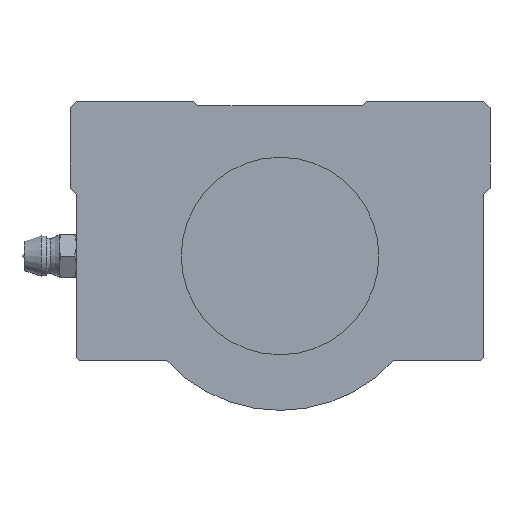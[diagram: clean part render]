
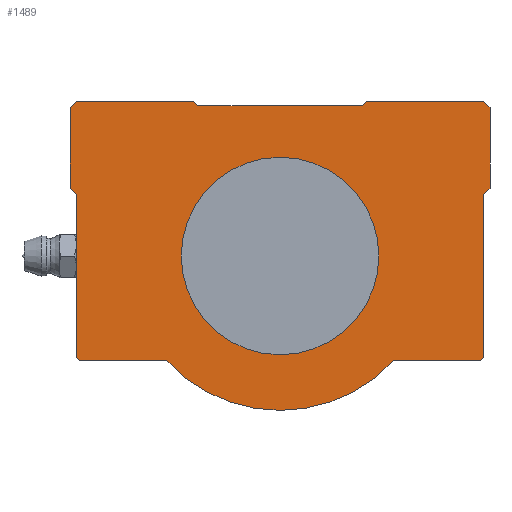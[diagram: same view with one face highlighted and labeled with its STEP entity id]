
A CAD part, left-side view. The second image highlights one B-rep face of the part: STEP entity #1489.
In plain terms, the highlighted planar face has unit normal (-1, 0, 0).
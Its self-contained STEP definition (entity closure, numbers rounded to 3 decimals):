
#1094=CARTESIAN_POINT('',(120.0,32.5,-17.));
#1095=VERTEX_POINT('',#1094);
#1102=CARTESIAN_POINT('',(120.0,33.,-16.5));
#1103=VERTEX_POINT('',#1102);
#1104=CARTESIAN_POINT('',(120.0,32.5,-17.));
#1105=DIRECTION('',(0.0,0.707,0.707));
#1106=VECTOR('',#1105,0.707);
#1107=LINE('',#1104,#1106);
#1108=EDGE_CURVE('',#1095,#1103,#1107,.T.);
#1133=CARTESIAN_POINT('',(120.0,18.33,-17.));
#1134=VERTEX_POINT('',#1133);
#1141=CARTESIAN_POINT('',(120.0,18.33,-17.));
#1142=DIRECTION('',(0.0,1.0,0.0));
#1143=VECTOR('',#1142,14.17);
#1144=LINE('',#1141,#1143);
#1145=EDGE_CURVE('',#1134,#1095,#1144,.T.);
#1326=CARTESIAN_POINT('',(120.0,-33.,-16.5));
#1327=VERTEX_POINT('',#1326);
#1334=CARTESIAN_POINT('',(120.0,-32.5,-17.));
#1335=VERTEX_POINT('',#1334);
#1336=CARTESIAN_POINT('',(120.0,-33.,-16.5));
#1337=DIRECTION('',(0.0,0.707,-0.707));
#1338=VECTOR('',#1337,0.707);
#1339=LINE('',#1336,#1338);
#1340=EDGE_CURVE('',#1327,#1335,#1339,.T.);
#1351=CARTESIAN_POINT('',(120.0,-24.,24.65));
#1352=DIRECTION('',(1.0,0.0,0.0));
#1353=DIRECTION('',(0.0,0.0,-1.0));
#1354=AXIS2_PLACEMENT_3D('',#1351,#1352,#1353);
#1355=PLANE('',#1354);
#1356=ORIENTED_EDGE('',*,*,#1108,.F.);
#1357=ORIENTED_EDGE('',*,*,#1145,.F.);
#1358=CARTESIAN_POINT('',(120.0,-18.33,-17.));
#1359=VERTEX_POINT('',#1358);
#1360=CARTESIAN_POINT('',(120.0,0.0,0.0));
#1361=DIRECTION('',(1.,0.0,0.0));
#1362=DIRECTION('',(0.0,-0.733,-0.68));
#1363=AXIS2_PLACEMENT_3D('',#1360,#1361,#1362);
#1364=CIRCLE('',#1363,25.0);
#1365=EDGE_CURVE('',#1359,#1134,#1364,.T.);
#1366=ORIENTED_EDGE('',*,*,#1365,.F.);
#1367=CARTESIAN_POINT('',(120.0,-32.5,-17.));
#1368=DIRECTION('',(0.0,1.0,0.0));
#1369=VECTOR('',#1368,14.17);
#1370=LINE('',#1367,#1369);
#1371=EDGE_CURVE('',#1335,#1359,#1370,.T.);
#1372=ORIENTED_EDGE('',*,*,#1371,.F.);
#1373=ORIENTED_EDGE('',*,*,#1340,.F.);
#1374=CARTESIAN_POINT('',(120.0,-33.0,10.));
#1375=VERTEX_POINT('',#1374);
#1376=CARTESIAN_POINT('',(120.0,-33.0,10.));
#1377=DIRECTION('',(0.0,0.0,-1.0));
#1378=VECTOR('',#1377,26.5);
#1379=LINE('',#1376,#1378);
#1380=EDGE_CURVE('',#1375,#1327,#1379,.T.);
#1381=ORIENTED_EDGE('',*,*,#1380,.F.);
#1382=CARTESIAN_POINT('',(120.0,-34.0,11.));
#1383=VERTEX_POINT('',#1382);
#1384=CARTESIAN_POINT('',(120.0,-34.0,11.));
#1385=DIRECTION('',(0.0,0.707,-0.707));
#1386=VECTOR('',#1385,1.414);
#1387=LINE('',#1384,#1386);
#1388=EDGE_CURVE('',#1383,#1375,#1387,.T.);
#1389=ORIENTED_EDGE('',*,*,#1388,.F.);
#1390=CARTESIAN_POINT('',(120.0,-34.0,24.));
#1391=VERTEX_POINT('',#1390);
#1392=CARTESIAN_POINT('',(120.0,-34.0,24.));
#1393=DIRECTION('',(0.0,0.0,-1.0));
#1394=VECTOR('',#1393,13.);
#1395=LINE('',#1392,#1394);
#1396=EDGE_CURVE('',#1391,#1383,#1395,.T.);
#1397=ORIENTED_EDGE('',*,*,#1396,.F.);
#1398=CARTESIAN_POINT('',(120.0,-33.,25.));
#1399=VERTEX_POINT('',#1398);
#1400=CARTESIAN_POINT('',(120.0,-33.,25.));
#1401=DIRECTION('',(0.0,-0.707,-0.707));
#1402=VECTOR('',#1401,1.414);
#1403=LINE('',#1400,#1402);
#1404=EDGE_CURVE('',#1399,#1391,#1403,.T.);
#1405=ORIENTED_EDGE('',*,*,#1404,.F.);
#1406=CARTESIAN_POINT('',(120.0,-14.,25.0));
#1407=VERTEX_POINT('',#1406);
#1408=CARTESIAN_POINT('',(120.0,-14.,25.0));
#1409=DIRECTION('',(0.0,-1.0,0.0));
#1410=VECTOR('',#1409,19.);
#1411=LINE('',#1408,#1410);
#1412=EDGE_CURVE('',#1407,#1399,#1411,.T.);
#1413=ORIENTED_EDGE('',*,*,#1412,.F.);
#1414=CARTESIAN_POINT('',(120.0,-13.3,24.3));
#1415=VERTEX_POINT('',#1414);
#1416=CARTESIAN_POINT('',(120.0,-13.3,24.3));
#1417=DIRECTION('',(0.0,-0.707,0.707));
#1418=VECTOR('',#1417,0.99);
#1419=LINE('',#1416,#1418);
#1420=EDGE_CURVE('',#1415,#1407,#1419,.T.);
#1421=ORIENTED_EDGE('',*,*,#1420,.F.);
#1422=CARTESIAN_POINT('',(120.0,13.3,24.3));
#1423=VERTEX_POINT('',#1422);
#1424=CARTESIAN_POINT('',(120.0,13.3,24.3));
#1425=DIRECTION('',(0.0,-1.0,0.0));
#1426=VECTOR('',#1425,26.6);
#1427=LINE('',#1424,#1426);
#1428=EDGE_CURVE('',#1423,#1415,#1427,.T.);
#1429=ORIENTED_EDGE('',*,*,#1428,.F.);
#1430=CARTESIAN_POINT('',(120.0,14.,25.0));
#1431=VERTEX_POINT('',#1430);
#1432=CARTESIAN_POINT('',(120.0,14.,25.0));
#1433=DIRECTION('',(0.0,-0.707,-0.707));
#1434=VECTOR('',#1433,0.99);
#1435=LINE('',#1432,#1434);
#1436=EDGE_CURVE('',#1431,#1423,#1435,.T.);
#1437=ORIENTED_EDGE('',*,*,#1436,.F.);
#1438=CARTESIAN_POINT('',(120.0,33.0,25.));
#1439=VERTEX_POINT('',#1438);
#1440=CARTESIAN_POINT('',(120.0,33.0,25.));
#1441=DIRECTION('',(0.0,-1.0,0.0));
#1442=VECTOR('',#1441,19.0);
#1443=LINE('',#1440,#1442);
#1444=EDGE_CURVE('',#1439,#1431,#1443,.T.);
#1445=ORIENTED_EDGE('',*,*,#1444,.F.);
#1446=CARTESIAN_POINT('',(120.0,34.0,24.));
#1447=VERTEX_POINT('',#1446);
#1448=CARTESIAN_POINT('',(120.0,34.0,24.));
#1449=DIRECTION('',(0.0,-0.707,0.707));
#1450=VECTOR('',#1449,1.414);
#1451=LINE('',#1448,#1450);
#1452=EDGE_CURVE('',#1447,#1439,#1451,.T.);
#1453=ORIENTED_EDGE('',*,*,#1452,.F.);
#1454=CARTESIAN_POINT('',(120.0,34.0,11.));
#1455=VERTEX_POINT('',#1454);
#1456=CARTESIAN_POINT('',(120.0,34.0,11.));
#1457=DIRECTION('',(0.0,0.0,1.0));
#1458=VECTOR('',#1457,13.);
#1459=LINE('',#1456,#1458);
#1460=EDGE_CURVE('',#1455,#1447,#1459,.T.);
#1461=ORIENTED_EDGE('',*,*,#1460,.F.);
#1462=CARTESIAN_POINT('',(120.0,33.0,10.));
#1463=VERTEX_POINT('',#1462);
#1464=CARTESIAN_POINT('',(120.0,33.0,10.));
#1465=DIRECTION('',(0.0,0.707,0.707));
#1466=VECTOR('',#1465,1.414);
#1467=LINE('',#1464,#1466);
#1468=EDGE_CURVE('',#1463,#1455,#1467,.T.);
#1469=ORIENTED_EDGE('',*,*,#1468,.F.);
#1470=CARTESIAN_POINT('',(120.0,33.,-16.5));
#1471=DIRECTION('',(0.0,0.0,1.0));
#1472=VECTOR('',#1471,26.5);
#1473=LINE('',#1470,#1472);
#1474=EDGE_CURVE('',#1103,#1463,#1473,.T.);
#1475=ORIENTED_EDGE('',*,*,#1474,.F.);
#1476=EDGE_LOOP('',(#1356,#1357,#1366,#1372,#1373,#1381,#1389,#1397,#1405,#1413,#1421,#1429,#1437,#1445,#1453,#1461,#1469,#1475));
#1477=FACE_OUTER_BOUND('',#1476,.T.);
#1478=CARTESIAN_POINT('',(120.0,16.0,0.));
#1479=VERTEX_POINT('',#1478);
#1480=CARTESIAN_POINT('',(120.0,0.0,0.0));
#1481=DIRECTION('',(1.0,0.0,0.0));
#1482=DIRECTION('',(0.0,-1.0,0.0));
#1483=AXIS2_PLACEMENT_3D('',#1480,#1481,#1482);
#1484=CIRCLE('',#1483,16.0);
#1485=EDGE_CURVE('',#1479,#1479,#1484,.T.);
#1486=ORIENTED_EDGE('',*,*,#1485,.T.);
#1487=EDGE_LOOP('',(#1486));
#1488=FACE_BOUND('',#1487,.T.);
#1489=ADVANCED_FACE('',(#1477,#1488),#1355,.F.);
